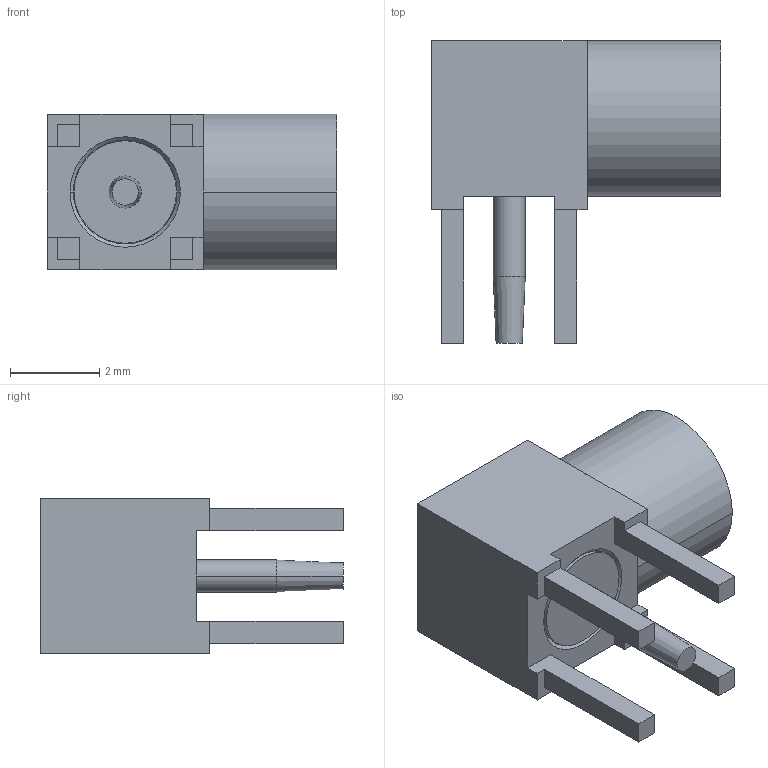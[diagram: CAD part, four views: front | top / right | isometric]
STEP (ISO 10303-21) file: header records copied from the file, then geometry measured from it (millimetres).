
FILE_DESCRIPTION(('STEP AP214'),'1');
FILE_NAME('mmcx-j-p-h-ra-th1.stp','2024-11-27T19:22:51',('TraceParts'),('TraceParts S.A.'),'Spatial InterOp 3D',' ',' ');
FILE_SCHEMA(('AUTOMOTIVE_DESIGN { 1 0 10303 214 1 1 1 1 }'));
Length unit declared in the file: millimetre
Products named in the file (1): mmcx-j-p-h-ra-th1
Bounding box: 6.5 x 6.8 x 3.5 mm (x, y, z)
Volume: 60.7 mm3; surface area: 169.6 mm2
Topology: 1 solids, 1 shells, 81 faces, 198 edges, 124 vertices
Faces by surface type: plane 47, cone 20, cylinder 14
Entity records: 3010 total; most frequent: CARTESIAN_POINT 428, DIRECTION 408, ORIENTED_EDGE 396, EDGE_CURVE 198, AXIS2_PLACEMENT_3D 140, LINE 128, VECTOR 128, VERTEX_POINT 124
